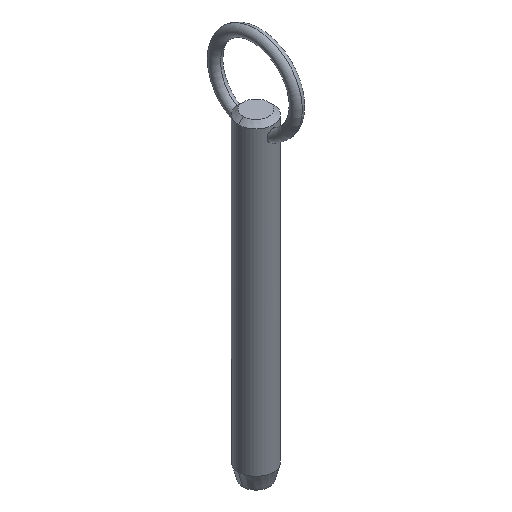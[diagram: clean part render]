
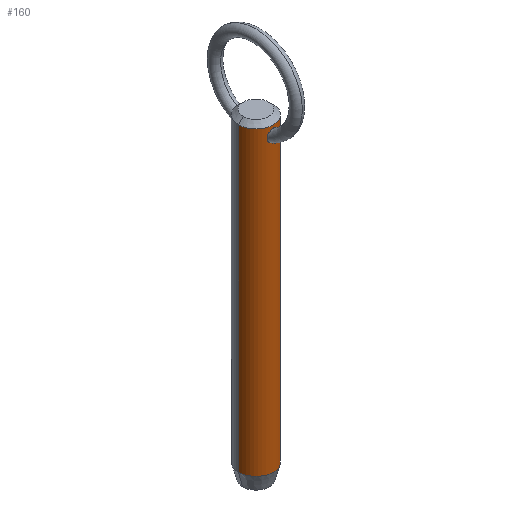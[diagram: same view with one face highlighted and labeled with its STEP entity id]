
A CAD part, isometric view. The second image highlights one B-rep face of the part: STEP entity #160.
In plain terms, the highlighted cylindrical face has radius 4.76 mm (diameter 9.52 mm), a partial arc.
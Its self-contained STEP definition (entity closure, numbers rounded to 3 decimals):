
#7 = CARTESIAN_POINT ( 'NONE',  ( 0., 0., 68.6 ) ) ;
#20 = CARTESIAN_POINT ( 'NONE',  ( 0.506, -4.734, 72.737 ) ) ;
#22 = EDGE_CURVE ( 'NONE', #154, #484, #151, .T. ) ;
#25 = CARTESIAN_POINT ( 'NONE',  ( 0.105, -4.76, 69.526 ) ) ;
#33 = CARTESIAN_POINT ( 'NONE',  ( 0., -4.76, 69.526 ) ) ;
#34 = ORIENTED_EDGE ( 'NONE', *, *, #235, .T. ) ;
#37 = CARTESIAN_POINT ( 'NONE',  ( -0.103, -4.76, 72.848 ) ) ;
#39 = CARTESIAN_POINT ( 'NONE',  ( -0.703, -4.709, 69.689 ) ) ;
#40 = CARTESIAN_POINT ( 'NONE',  ( -4.76, 0., -8.7 ) ) ;
#41 = CARTESIAN_POINT ( 'NONE',  ( 0., -4.76, 69.526 ) ) ;
#48 = AXIS2_PLACEMENT_3D ( 'NONE', #152, #242, #445 ) ;
#52 = CARTESIAN_POINT ( 'NONE',  ( 0., 0., 73.65 ) ) ;
#59 = CARTESIAN_POINT ( 'NONE',  ( 0.997, -4.655, 72.364 ) ) ;
#62 = CARTESIAN_POINT ( 'NONE',  ( 1.404, -4.548, 71.653 ) ) ;
#64 = CARTESIAN_POINT ( 'NONE',  ( -4.76, 0., 73.65 ) ) ;
#94 = ORIENTED_EDGE ( 'NONE', *, *, #261, .T. ) ;
#97 = CARTESIAN_POINT ( 'NONE',  ( 0.409, -4.743, 72.778 ) ) ;
#100 = CARTESIAN_POINT ( 'NONE',  ( 1.503, -4.517, 71.04 ) ) ;
#101 = ORIENTED_EDGE ( 'NONE', *, *, #323, .T. ) ;
#102 = AXIS2_PLACEMENT_3D ( 'NONE', #7, #269, #436 ) ;
#106 = CARTESIAN_POINT ( 'NONE',  ( -0.416, -4.746, 69.567 ) ) ;
#107 = CARTESIAN_POINT ( 'NONE',  ( -0.961, -4.663, 69.857 ) ) ;
#108 = CARTESIAN_POINT ( 'NONE',  ( 0., -4.76, 72.848 ) ) ;
#113 = CARTESIAN_POINT ( 'NONE',  ( 4.76, 0., -8.7 ) ) ;
#129 = CARTESIAN_POINT ( 'NONE',  ( 0.512, -4.733, 69.608 ) ) ;
#130 = VERTEX_POINT ( 'NONE', #40 ) ;
#131 = CARTESIAN_POINT ( 'NONE',  ( 0., -4.76, 72.848 ) ) ;
#140 = CARTESIAN_POINT ( 'NONE',  ( -0.504, -4.734, 72.738 ) ) ;
#142 = AXIS2_PLACEMENT_3D ( 'NONE', #52, #442, #280 ) ;
#151 = B_SPLINE_CURVE_WITH_KNOTS ( 'NONE', 3,
 ( #33, #177, #106, #39, #520, #107, #217, #345, #183, #225, #391, #187, #514, #474, #302, #478, #305, #140, #394, #347, #37, #108 ),
 .UNSPECIFIED., .F., .F.,
 ( 4, 2, 2, 2, 2, 2, 2, 2, 2, 2, 4 ),
 ( 0.009, 0.01, 0.01, 0.011, 0.011, 0.012, 0.012, 0.013, 0.014, 0.014, 0.014 ),
 .UNSPECIFIED. ) ;
#152 = CARTESIAN_POINT ( 'NONE',  ( 0., 0., -8.7 ) ) ;
#154 = VERTEX_POINT ( 'NONE', #41 ) ;
#158 = CARTESIAN_POINT ( 'NONE',  ( 1.24, -4.596, 70.16 ) ) ;
#160 = ADVANCED_FACE ( 'NONE', ( #506, #411 ), #252, .T. ) ;
#164 = CARTESIAN_POINT ( 'NONE',  ( 1.492, -4.52, 71.248 ) ) ;
#166 = CARTESIAN_POINT ( 'NONE',  ( 1.178, -4.613, 70.076 ) ) ;
#167 = CARTESIAN_POINT ( 'NONE',  ( 0.687, -4.711, 72.635 ) ) ;
#177 = CARTESIAN_POINT ( 'NONE',  ( -0.21, -4.76, 69.526 ) ) ;
#181 = EDGE_CURVE ( 'NONE', #448, #476, #379, .T. ) ;
#182 = CIRCLE ( 'NONE', #142, 4.76 ) ;
#183 = CARTESIAN_POINT ( 'NONE',  ( -1.353, -4.564, 70.335 ) ) ;
#187 = CARTESIAN_POINT ( 'NONE',  ( -1.487, -4.522, 71.353 ) ) ;
#196 = DIRECTION ( 'NONE',  ( 0., 0., -1. ) ) ;
#199 = ORIENTED_EDGE ( 'NONE', *, *, #181, .F. ) ;
#203 = CARTESIAN_POINT ( 'NONE',  ( 1.473, -4.526, 70.731 ) ) ;
#209 = CARTESIAN_POINT ( 'NONE',  ( 1.434, -4.539, 71.554 ) ) ;
#210 = CARTESIAN_POINT ( 'NONE',  ( 1.385, -4.554, 70.432 ) ) ;
#216 = CARTESIAN_POINT ( 'NONE',  ( 4.76, 0., 73.65 ) ) ;
#217 = CARTESIAN_POINT ( 'NONE',  ( -1.039, -4.646, 69.926 ) ) ;
#225 = CARTESIAN_POINT ( 'NONE',  ( -1.483, -4.524, 70.726 ) ) ;
#227 = CIRCLE ( 'NONE', #48, 4.76 ) ;
#235 = EDGE_CURVE ( 'NONE', #448, #527, #182, .T. ) ;
#242 = DIRECTION ( 'NONE',  ( 0., 0., 1. ) ) ;
#247 = CARTESIAN_POINT ( 'NONE',  ( 0.209, -4.756, 72.834 ) ) ;
#250 = CARTESIAN_POINT ( 'NONE',  ( 0.97, -4.662, 69.85 ) ) ;
#252 = CYLINDRICAL_SURFACE ( 'NONE', #102, 4.76 ) ;
#258 = DIRECTION ( 'NONE',  ( 0., 0., -1. ) ) ;
#261 = EDGE_CURVE ( 'NONE', #130, #476, #227, .T. ) ;
#269 = DIRECTION ( 'NONE',  ( 0., 0., -1. ) ) ;
#280 = DIRECTION ( 'NONE',  ( 1., 0., 0. ) ) ;
#290 = CARTESIAN_POINT ( 'NONE',  ( 0.104, -4.76, 72.848 ) ) ;
#293 = CARTESIAN_POINT ( 'NONE',  ( 1.344, -4.567, 70.339 ) ) ;
#295 = CARTESIAN_POINT ( 'NONE',  ( 0.411, -4.743, 69.577 ) ) ;
#302 = CARTESIAN_POINT ( 'NONE',  ( -1.19, -4.611, 72.124 ) ) ;
#305 = CARTESIAN_POINT ( 'NONE',  ( -0.777, -4.7, 72.585 ) ) ;
#323 = EDGE_CURVE ( 'NONE', #484, #154, #358, .T. ) ;
#326 = ORIENTED_EDGE ( 'NONE', *, *, #22, .T. ) ;
#328 = CARTESIAN_POINT ( 'NONE',  ( 1.499, -4.518, 70.937 ) ) ;
#329 = CARTESIAN_POINT ( 'NONE',  ( 1.19, -4.611, 72.124 ) ) ;
#331 = CARTESIAN_POINT ( 'NONE',  ( 1.478, -4.525, 71.352 ) ) ;
#335 = VECTOR ( 'NONE', #196, 1000. ) ;
#345 = CARTESIAN_POINT ( 'NONE',  ( -1.247, -4.596, 70.152 ) ) ;
#347 = CARTESIAN_POINT ( 'NONE',  ( -0.208, -4.757, 72.834 ) ) ;
#356 = EDGE_LOOP ( 'NONE', ( #101, #326 ) ) ;
#358 = B_SPLINE_CURVE_WITH_KNOTS ( 'NONE', 3,
 ( #131, #290, #247, #97, #20, #167, #464, #458, #59, #329, #413, #62, #209, #331, #164, #100, #328, #203, #421, #210, #293, #158, #166, #250, #503, #129, #295, #502, #25, #373 ),
 .UNSPECIFIED., .F., .F.,
 ( 4, 2, 2, 2, 2, 2, 2, 2, 2, 2, 2, 2, 2, 2, 4 ),
 ( 0.004, 0.005, 0.005, 0.005, 0.006, 0.006, 0.007, 0.007, 0.007, 0.007, 0.008, 0.008, 0.009, 0.009, 0.009 ),
 .UNSPECIFIED. ) ;
#362 = EDGE_LOOP ( 'NONE', ( #199, #34, #465, #94 ) ) ;
#373 = CARTESIAN_POINT ( 'NONE',  ( 0., -4.76, 69.526 ) ) ;
#379 = LINE ( 'NONE', #441, #335 ) ;
#391 = CARTESIAN_POINT ( 'NONE',  ( -1.508, -4.515, 70.937 ) ) ;
#392 = EDGE_CURVE ( 'NONE', #527, #130, #509, .T. ) ;
#394 = CARTESIAN_POINT ( 'NONE',  ( -0.409, -4.743, 72.778 ) ) ;
#402 = CARTESIAN_POINT ( 'NONE',  ( 0., -4.76, 72.848 ) ) ;
#411 = FACE_BOUND ( 'NONE', #356, .T. ) ;
#413 = CARTESIAN_POINT ( 'NONE',  ( 1.293, -4.582, 71.942 ) ) ;
#421 = CARTESIAN_POINT ( 'NONE',  ( 1.45, -4.534, 70.628 ) ) ;
#427 = CARTESIAN_POINT ( 'NONE',  ( -4.76, 0., 68.6 ) ) ;
#436 = DIRECTION ( 'NONE',  ( -1., 0., 0. ) ) ;
#441 = CARTESIAN_POINT ( 'NONE',  ( 4.76, 0., 68.6 ) ) ;
#442 = DIRECTION ( 'NONE',  ( 0., 0., -1. ) ) ;
#445 = DIRECTION ( 'NONE',  ( -1., 0., 0. ) ) ;
#448 = VERTEX_POINT ( 'NONE', #216 ) ;
#458 = CARTESIAN_POINT ( 'NONE',  ( 0.925, -4.67, 72.439 ) ) ;
#464 = CARTESIAN_POINT ( 'NONE',  ( 0.77, -4.698, 72.575 ) ) ;
#465 = ORIENTED_EDGE ( 'NONE', *, *, #392, .T. ) ;
#474 = CARTESIAN_POINT ( 'NONE',  ( -1.292, -4.582, 71.945 ) ) ;
#476 = VERTEX_POINT ( 'NONE', #113 ) ;
#478 = CARTESIAN_POINT ( 'NONE',  ( -0.932, -4.67, 72.445 ) ) ;
#484 = VERTEX_POINT ( 'NONE', #402 ) ;
#502 = CARTESIAN_POINT ( 'NONE',  ( 0.208, -4.757, 69.536 ) ) ;
#503 = CARTESIAN_POINT ( 'NONE',  ( 0.797, -4.697, 69.729 ) ) ;
#506 = FACE_OUTER_BOUND ( 'NONE', #362, .T. ) ;
#509 = LINE ( 'NONE', #427, #516 ) ;
#514 = CARTESIAN_POINT ( 'NONE',  ( -1.441, -4.537, 71.557 ) ) ;
#516 = VECTOR ( 'NONE', #258, 1000. ) ;
#520 = CARTESIAN_POINT ( 'NONE',  ( -0.793, -4.694, 69.739 ) ) ;
#527 = VERTEX_POINT ( 'NONE', #64 ) ;
